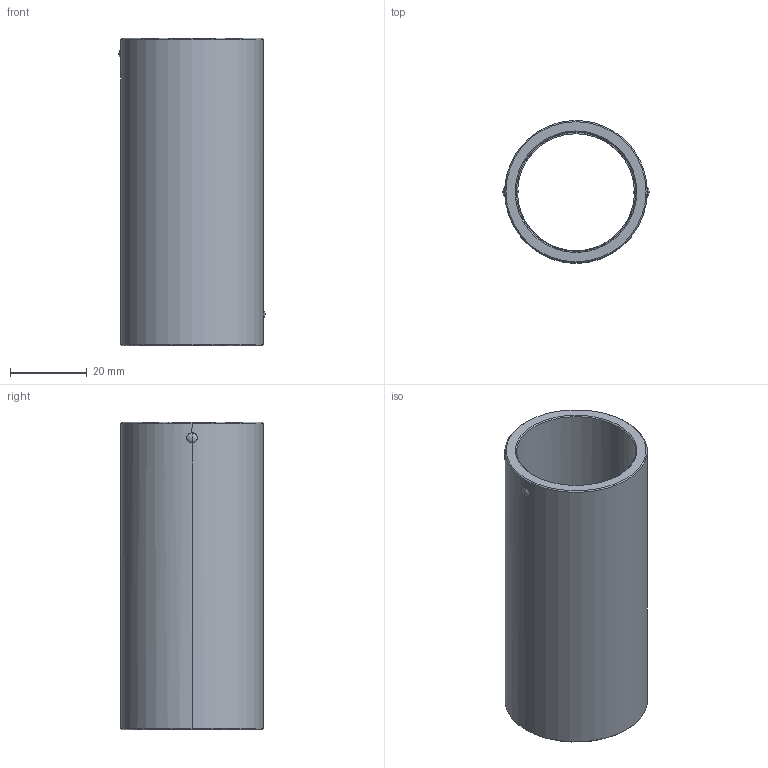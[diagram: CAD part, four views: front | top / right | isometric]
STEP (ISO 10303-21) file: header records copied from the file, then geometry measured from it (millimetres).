
FILE_DESCRIPTION(('CATIA V5 STEP Exchange'),'2;1');
FILE_NAME('C:\Users\Utente\Desktop\IO LAVORO\3D X SITO CF\X SITO\730\730-30x80.stp','2021-01-07T16:12:59+00:00',('none'),('none'),'CATIA Version 5 Release 20 GA (IN-10)','CATIA V5 STEP AP203','none');
FILE_SCHEMA(('CONFIG_CONTROL_DESIGN'));
Length unit declared in the file: millimetre
Products named in the file (1): 730-30x80
Bounding box: 37.99 x 37 x 80 mm (x, y, z)
Volume: 24850.9 mm3; surface area: 18051 mm2
Topology: 1 solids, 1 shells, 44 faces, 120 edges, 76 vertices
Faces by surface type: cylinder 18, cone 10, plane 8, sphere 8
Entity records: 1722 total; most frequent: CARTESIAN_POINT 655, ORIENTED_EDGE 240, DIRECTION 161, EDGE_CURVE 120, AXIS2_PLACEMENT_3D 80, VERTEX_POINT 76, EDGE_LOOP 48, B_SPLINE_CURVE_WITH_KNOTS 47
